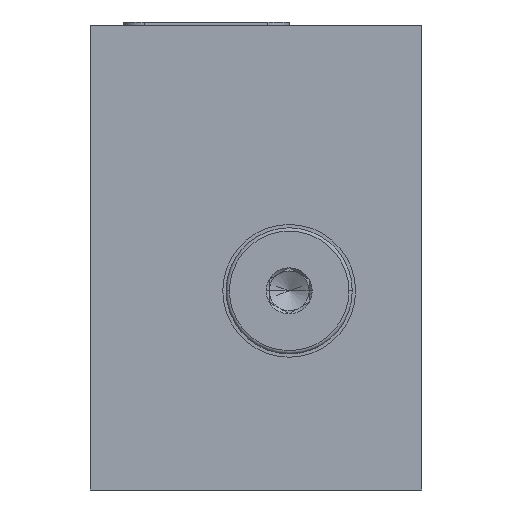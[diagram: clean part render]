
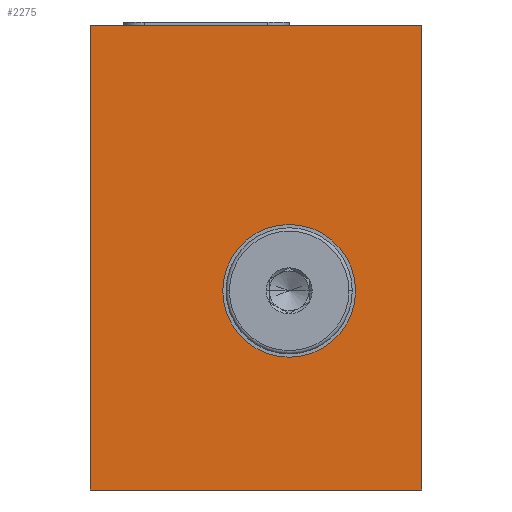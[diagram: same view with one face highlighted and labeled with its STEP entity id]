
A CAD part, left-side view. The second image highlights one B-rep face of the part: STEP entity #2275.
In plain terms, the highlighted planar face has unit normal (-1, 0, 0).
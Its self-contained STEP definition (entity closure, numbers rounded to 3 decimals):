
#47=DIRECTION('',(0.,-1.,0.));
#48=VECTOR('',#47,50.);
#49=CARTESIAN_POINT('',(0.,50.,0.));
#50=LINE('',#49,#48);
#265=DIRECTION('',(0.,0.,-1.));
#266=VECTOR('',#265,70.);
#267=CARTESIAN_POINT('',(0.,0.,0.));
#268=LINE('',#267,#266);
#437=DIRECTION('',(0.,0.,-1.));
#438=VECTOR('',#437,70.);
#439=CARTESIAN_POINT('',(0.,50.,0.));
#440=LINE('',#439,#438);
#444=CARTESIAN_POINT('',(0.,20.,-40.));
#445=DIRECTION('',(1.,0.,0.));
#446=DIRECTION('',(0.,-1.,0.));
#447=AXIS2_PLACEMENT_3D('',#444,#445,#446);
#452=CARTESIAN_POINT('',(0.,20.,-40.));
#453=DIRECTION('',(1.,0.,0.));
#454=DIRECTION('',(0.,1.,0.));
#455=AXIS2_PLACEMENT_3D('',#452,#453,#454);
#481=DIRECTION('',(0.,-1.,0.));
#482=VECTOR('',#481,50.);
#483=CARTESIAN_POINT('',(0.,50.,-70.));
#484=LINE('',#483,#482);
#1784=CARTESIAN_POINT('',(0.,0.,0.));
#1786=VERTEX_POINT('',#1784);
#1790=CARTESIAN_POINT('',(0.,50.,0.));
#1791=VERTEX_POINT('',#1790);
#1792=CARTESIAN_POINT('',(0.,0.,-70.));
#1794=VERTEX_POINT('',#1792);
#1798=CARTESIAN_POINT('',(0.,50.,-70.));
#1799=VERTEX_POINT('',#1798);
#1948=CARTESIAN_POINT('',(0.,10.,-40.));
#1949=VERTEX_POINT('',#1948);
#1950=CARTESIAN_POINT('',(0.,30.,-40.));
#1951=VERTEX_POINT('',#1950);
#2257=CARTESIAN_POINT('',(0.,50.,0.));
#2258=DIRECTION('',(-1.,0.,0.));
#2259=DIRECTION('',(0.,-1.,0.));
#2260=AXIS2_PLACEMENT_3D('',#2257,#2258,#2259);
#2261=PLANE('',#2260);
#2262=ORIENTED_EDGE('',*,*,#2064,.T.);
#2263=ORIENTED_EDGE('',*,*,#2102,.T.);
#2265=ORIENTED_EDGE('',*,*,#2264,.F.);
#2266=ORIENTED_EDGE('',*,*,#2196,.F.);
#2267=EDGE_LOOP('',(#2262,#2263,#2265,#2266));
#2268=FACE_OUTER_BOUND('',#2267,.F.);
#2270=ORIENTED_EDGE('',*,*,#2269,.F.);
#2272=ORIENTED_EDGE('',*,*,#2271,.F.);
#2273=EDGE_LOOP('',(#2270,#2272));
#2274=FACE_BOUND('',#2273,.F.);
#448=CIRCLE('',#447,10.);
#456=CIRCLE('',#455,10.);
#2064=EDGE_CURVE('',#1791,#1786,#50,.T.);
#2102=EDGE_CURVE('',#1786,#1794,#268,.T.);
#2196=EDGE_CURVE('',#1791,#1799,#440,.T.);
#2264=EDGE_CURVE('',#1799,#1794,#484,.T.);
#2269=EDGE_CURVE('',#1949,#1951,#448,.T.);
#2271=EDGE_CURVE('',#1951,#1949,#456,.T.);
#2275=ADVANCED_FACE('',(#2268,#2274),#2261,.T.);
